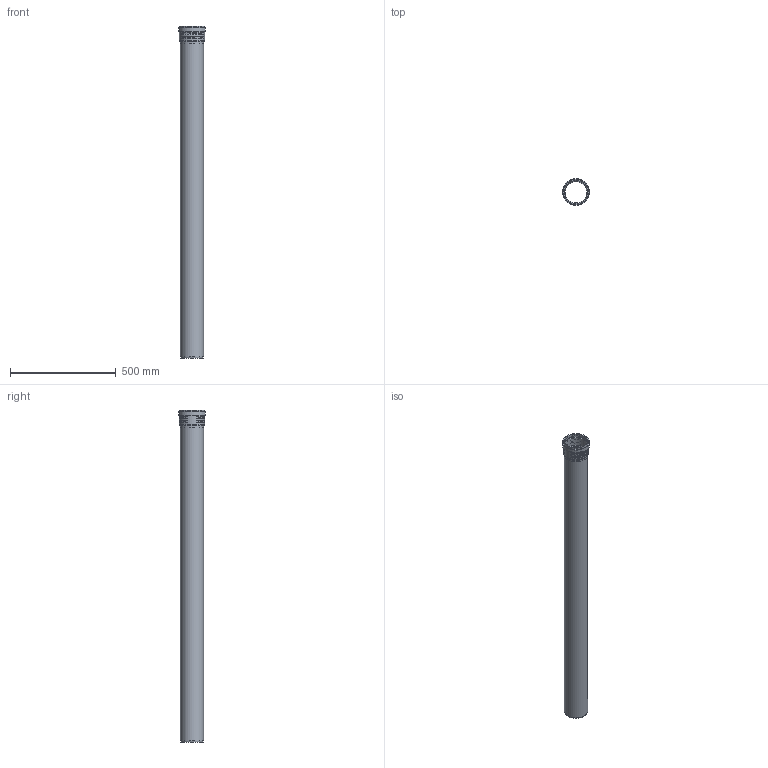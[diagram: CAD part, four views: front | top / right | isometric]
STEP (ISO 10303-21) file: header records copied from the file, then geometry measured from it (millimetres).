
FILE_DESCRIPTION(/* description */ (''),/* implementation_level */ '2;1');
FILE_NAME(/* name */ 'Z:\Geberit\Export\NewStep\390505.stp',/* time_stamp */ '2014-04-02T08:13:52+02:00',/* author */ ('ML'),/* organization */ (''),/* preprocessor_version */ 'ST-DEVELOPER v15.2',/* originating_system */ 'Autodesk Inventor 2014',/* authorisation */ '');
FILE_SCHEMA (('AUTOMOTIVE_DESIGN { 1 0 10303 214 3 1 1 }'));
Length unit declared in the file: millimetre
Products named in the file (3): 861442; 861585ohne; 390505
Bounding box: 127.4 x 127.4 x 1568.1 mm (x, y, z)
Volume: 1926021.3 mm3; surface area: 1076252.2 mm2
Topology: 2 solids, 2 shells, 47 faces, 104 edges, 71 vertices
Faces by surface type: torus 24, cylinder 11, plane 10, cone 2
Full cylindrical faces by diameter (mm): 103 x2, 110.2 x2, 111.1 x2, 114.7 x1, 118.3 x2, 120.2 x1, 127.4 x1
Entity records: 2003 total; most frequent: CARTESIAN_POINT 962, DIRECTION 182, ORIENTED_EDGE 174, AXIS2_PLACEMENT_3D 91, EDGE_CURVE 87, EDGE_LOOP 78, VERTEX_POINT 71, STYLED_ITEM 49
